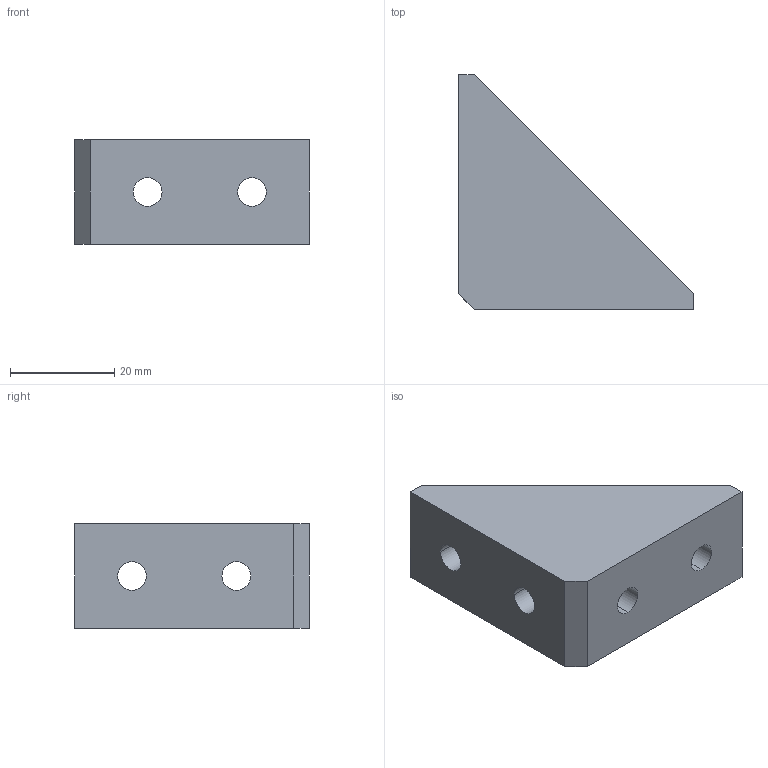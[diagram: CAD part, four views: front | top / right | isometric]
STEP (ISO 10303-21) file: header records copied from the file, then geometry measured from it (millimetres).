
FILE_DESCRIPTION (( 'STEP AP203' ), '1' );
FILE_NAME ('TriangleConnectionBracket.STEP', '2025-03-11T00:33:57', ( '' ), ( '' ), 'SwSTEP 2.0', 'SolidWorks 2024', '' );
FILE_SCHEMA (( 'CONFIG_CONTROL_DESIGN' ));
Length unit declared in the file: millimetre
Products named in the file (1): TriangleConnectionBracket
Bounding box: 45 x 45 x 20 mm (x, y, z)
Volume: 11252.9 mm3; surface area: 7330.6 mm2
Topology: 1 solids, 1 shells, 21 faces, 54 edges, 36 vertices
Faces by surface type: plane 13, cylinder 8
Entity records: 737 total; most frequent: DIRECTION 114, CARTESIAN_POINT 112, ORIENTED_EDGE 108, EDGE_CURVE 54, LINE 38, AXIS2_PLACEMENT_3D 38, VECTOR 38, VERTEX_POINT 36
